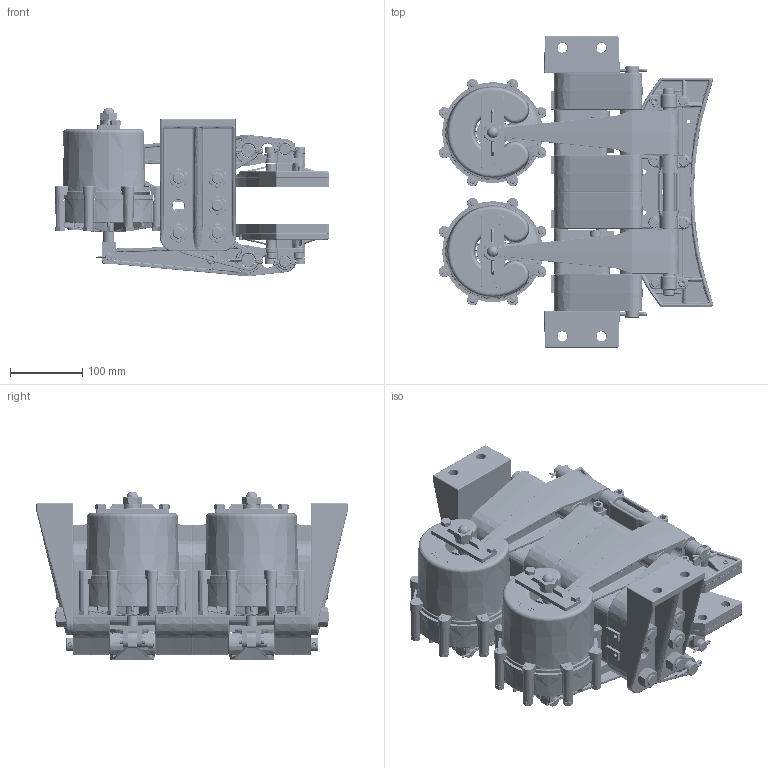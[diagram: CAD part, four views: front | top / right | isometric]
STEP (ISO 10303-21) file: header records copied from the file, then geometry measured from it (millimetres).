
FILE_DESCRIPTION (( 'STEP AP214' ), '1' );
FILE_NAME ('5022-SAW-RH.STEP', '2016-06-02T17:27:12', ( 'User' ), ( 'Microsoft' ), 'SwSTEP 2.0', 'SolidWorks 2015', '' );
FILE_SCHEMA (( 'AUTOMOTIVE_DESIGN' ));
Length unit declared in the file: inch
Products named in the file (1): 5022-SAW-RH
Bounding box: 380.38 x 431.47 x 234.08 mm (x, y, z)
Surface area: 1231688.9 mm2 (no closed solid volume)
Topology: 0 solids, 199 shells, 5235 faces, 17268 edges, 11579 vertices
Faces by surface type: cylinder 1480, plane 1298, cone 863, bspline 850, torus 700, sphere 44
Entity records: 339224 total; most frequent: CARTESIAN_POINT 137529, ORIENTED_EDGE 26934, DIRECTION 25734, EDGE_CURVE 17178, VERTEX_POINT 11579, AXIS2_PLACEMENT_3D 10319, CIRCLE 5933, EDGE_LOOP 5694
